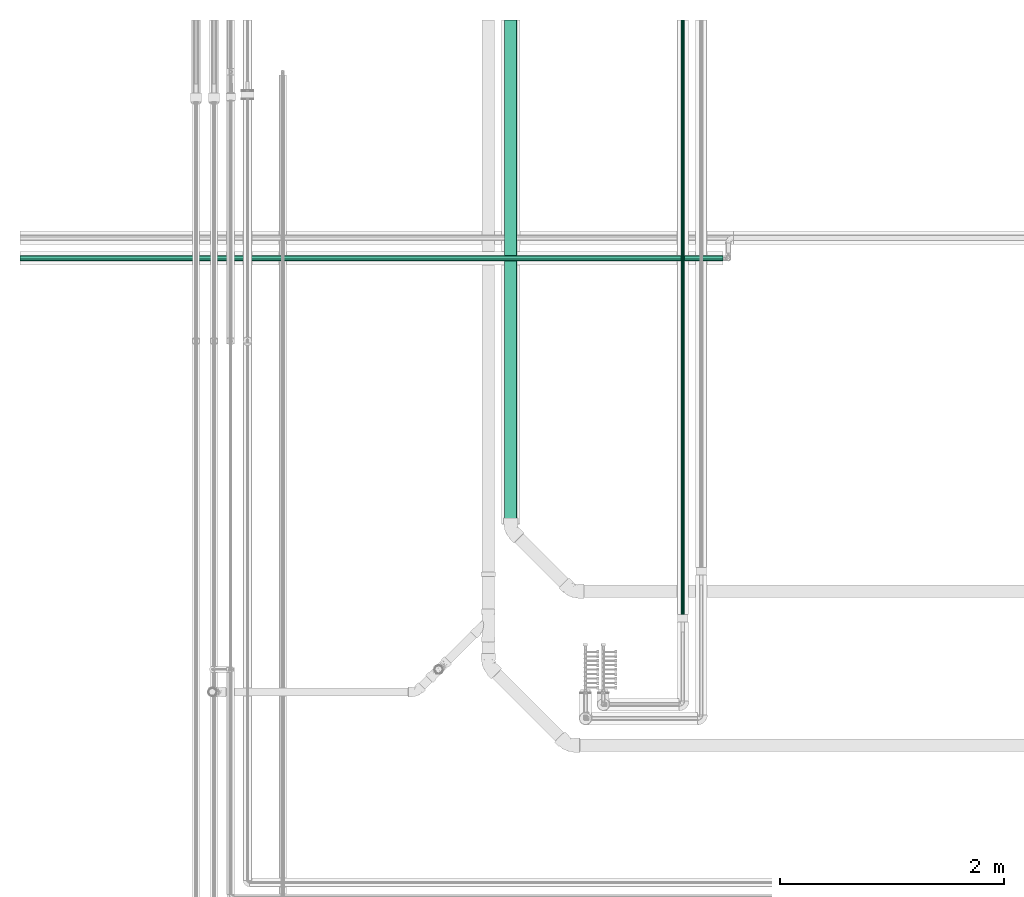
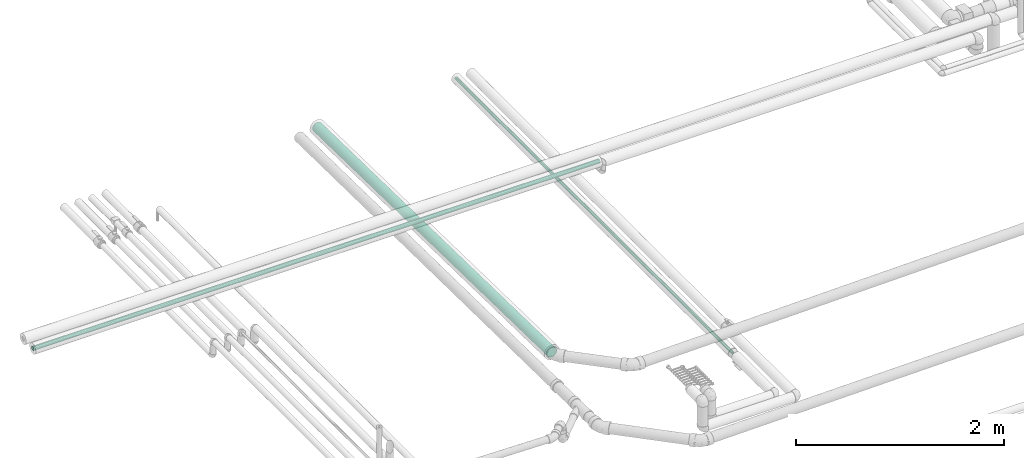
# One storey, part 52 of 83: 3 flow segments.
"""IFC2X3 building model written with IfcOpenShell, lengths in millimetres."""

from ifc_helpers import new_model, entity, si_unit, converted_unit, derived_unit, direction, frame, place, context, subcontext, project, spatial, faceted_brep, type_object, element, save


model = new_model("IFC2X3")

# Units and contexts
model_context = context("Model", 3, precision=0.01, world=frame((0.0, 4.29681676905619e-09, 0.0)), true_north=direction((4.01073788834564e-13, 1.0)))
plan_context = context("Plan", 3, precision=0.01, world=frame((0.0, 4.29681676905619e-09, 0.0)), true_north=direction((4.01073788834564e-13, 1.0)))
body_context = subcontext(model_context, "Body", "Model", "MODEL_VIEW")
ifc_project = project(units=[converted_unit("PLANEANGLEUNIT", "DEGREE", entity("IfcPositiveLengthMeasure", 0.0174532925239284), si_unit("PLANEANGLEUNIT", "RADIAN"), dimensions=[0, 0, 0, 0, 0, 0, 0]), si_unit("AREAUNIT", "SQUARE_METRE"), si_unit("LENGTHUNIT", "METRE", prefix="MILLI"), si_unit("MASSUNIT", "GRAM", prefix="KILO"), si_unit("POWERUNIT", "WATT"), si_unit("PRESSUREUNIT", "PASCAL"), si_unit("FORCEUNIT", "NEWTON", prefix="KILO"), si_unit("ELECTRICVOLTAGEUNIT", "VOLT"), si_unit("ELECTRICCURRENTUNIT", "AMPERE"), si_unit("THERMODYNAMICTEMPERATUREUNIT", "DEGREE_CELSIUS"), si_unit("TIMEUNIT", "SECOND"), si_unit("VOLUMEUNIT", "CUBIC_METRE"), derived_unit("LINEARVELOCITYUNIT", [(si_unit("LENGTHUNIT", "METRE"), 1), (si_unit("TIMEUNIT", "SECOND"), -1)]), derived_unit("VOLUMETRICFLOWRATEUNIT", [(si_unit("VOLUMEUNIT", "CUBIC_METRE"), 1), (si_unit("TIMEUNIT", "SECOND"), -1)]), derived_unit("THERMALTRANSMITTANCEUNIT", [(si_unit("POWERUNIT", "WATT"), 1), (si_unit("THERMODYNAMICTEMPERATUREUNIT", "KELVIN"), -1), (si_unit("AREAUNIT", "SQUARE_METRE"), -1)]), derived_unit("SOUNDPRESSUREUNIT", [(si_unit("PRESSUREUNIT", "PASCAL"), 1)])], contexts=[model_context, plan_context])

# Site, building, storey
site_placement = place(None, frame((0.0, -4.29681676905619e-09, 0.0), z_axis=(0.0, 0.0, 1.0), x_axis=(1.0, 0.0, 0.0)))
site = spatial("IfcSite", under=ifc_project, at=site_placement, Name="ENGM", CompositionType="ELEMENT")
building_placement = place(site_placement, frame((0.0, 4.29681676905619e-09, 0.0), z_axis=(0.0, 0.0, 1.0), x_axis=(1.0, 0.0, 0.0)))
building = spatial("IfcBuilding", under=site, at=building_placement, Name="TI", CompositionType="ELEMENT")
storey_placement = place(building_placement, frame((0.0, 0.0, 204000.0), z_axis=(0.0, 0.0, 1.0), x_axis=(1.0, 0.0, 0.0)))
storey = spatial("IfcBuildingStorey", under=building, at=storey_placement, Name="Nivå D", CompositionType="ELEMENT", Elevation=204000.0)

# Flow segments
pipe_segment_type_1 = type_object("IfcPipeSegmentType", Name="Stålrør normaltykke", PredefinedType="RIGIDSEGMENT")
flow_segment_1_placement = place(storey_placement, frame((603920.1909, 694163.73028, 6040.50777999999), z_axis=(0.0, 0.0, 1.0), x_axis=(0.0, 1.0, 0.0)))
element("IfcFlowSegment", 1, at=flow_segment_1_placement, inside=storey, type_object=pipe_segment_type_1, Name="Stålrør normaltykke", context=body_context, shape_type="Brep", body=[
    faceted_brep([(5311.76971999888, 14.9, 0.0), (5311.76971999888, 14.6736355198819, -2.58735784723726), (0.0, 14.6736355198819, -2.58735784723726), (0.0, 14.9, 0.0), (5311.76971999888, 14.00142004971, -5.09610013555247), (0.0, 14.00142004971, -5.09610013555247), (5311.76971999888, 12.9037785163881, -7.45000000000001), (0.0, 12.9037785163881, -7.45000000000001), (5311.76971999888, 11.4140622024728, -9.57753538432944), (0.0, 11.4140622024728, -9.57753538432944), (5311.76971999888, 9.57753538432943, -11.4140622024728), (0.0, 9.57753538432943, -11.4140622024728), (5311.76971999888, 7.45, -12.9037785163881), (0.0, 7.45, -12.9037785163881), (5311.76971999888, 5.09610013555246, -14.00142004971), (0.0, 5.09610013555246, -14.00142004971), (5311.76971999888, 2.58735784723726, -14.6736355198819), (0.0, 2.58735784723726, -14.6736355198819), (5311.76971999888, -2.73708559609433e-15, -14.9), (0.0, -2.73708559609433e-15, -14.9), (5311.76971999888, -2.58735784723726, -14.6736355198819), (0.0, -2.58735784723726, -14.6736355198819), (5311.76971999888, -5.09610013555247, -14.00142004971), (0.0, -5.09610013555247, -14.00142004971), (5311.76971999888, -7.45000000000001, -12.9037785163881), (0.0, -7.45000000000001, -12.9037785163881), (5311.76971999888, -9.57753538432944, -11.4140622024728), (0.0, -9.57753538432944, -11.4140622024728), (5311.76971999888, -11.4140622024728, -9.57753538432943), (0.0, -11.4140622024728, -9.57753538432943), (5311.76971999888, -12.9037785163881, -7.45), (0.0, -12.9037785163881, -7.44999999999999), (5311.76971999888, -14.00142004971, -5.09610013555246), (0.0, -14.00142004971, -5.09610013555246), (5311.76971999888, -14.6736355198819, -2.58735784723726), (0.0, -14.6736355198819, -2.58735784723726), (5311.76971999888, -14.9, 1.82472373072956e-15), (0.0, -14.9, 1.82472373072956e-15), (5311.76971999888, -14.6736355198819, 2.58735784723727), (0.0, -14.6736355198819, 2.58735784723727), (5311.76971999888, -14.00142004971, 5.09610013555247), (0.0, -14.00142004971, 5.09610013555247), (5311.76971999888, -12.9037785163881, 7.45), (0.0, -12.9037785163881, 7.45), (5311.76971999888, -11.4140622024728, 9.57753538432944), (0.0, -11.4140622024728, 9.57753538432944), (5311.76971999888, -9.57753538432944, 11.4140622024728), (0.0, -9.57753538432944, 11.4140622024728), (5311.76971999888, -7.45, 12.9037785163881), (0.0, -7.45, 12.9037785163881), (5311.76971999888, -5.09610013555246, 14.00142004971), (0.0, -5.09610013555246, 14.00142004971), (5311.76971999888, -2.58735784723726, 14.6736355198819), (0.0, -2.58735784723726, 14.6736355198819), (5311.76971999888, 9.12361865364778e-16, 14.9), (0.0, 9.12361865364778e-16, 14.9), (5311.76971999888, 2.58735784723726, 14.6736355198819), (0.0, 2.58735784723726, 14.6736355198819), (5311.76971999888, 5.09610013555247, 14.00142004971), (0.0, 5.09610013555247, 14.00142004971), (5311.76971999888, 7.45, 12.9037785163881), (0.0, 7.45, 12.9037785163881), (5311.76971999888, 9.57753538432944, 11.4140622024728), (0.0, 9.57753538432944, 11.4140622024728), (5311.76971999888, 11.4140622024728, 9.57753538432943), (0.0, 11.4140622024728, 9.57753538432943), (5311.76971999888, 12.9037785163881, 7.45), (0.0, 12.9037785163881, 7.45), (5311.76971999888, 14.00142004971, 5.09610013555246), (0.0, 14.00142004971, 5.09610013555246), (5311.76971999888, 14.6736355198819, 2.58735784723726), (0.0, 14.6736355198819, 2.58735784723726), (5311.76971999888, 16.6432510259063, -2.93465420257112), (5311.76971999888, 16.9, 0.0), (0.0, 16.9, 0.0), (0.0, 16.6432510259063, -2.93465420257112), (5311.76971999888, 16.6432510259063, 2.93465420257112), (0.0, 16.6432510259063, 2.93465420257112), (5311.76971999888, 15.8808052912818, 5.7801404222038), (0.0, 15.8808052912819, 5.7801404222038), (5311.76971999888, 14.635829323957, 8.45), (0.0, 14.635829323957, 8.45), (5311.76971999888, 12.9461510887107, 10.8631106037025), (0.0, 12.9461510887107, 10.8631106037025), (5311.76971999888, 10.8631106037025, 12.9461510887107), (0.0, 10.8631106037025, 12.9461510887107), (5311.76971999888, 8.45, 14.635829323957), (0.0, 8.45, 14.635829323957), (5311.76971999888, 5.7801404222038, 15.8808052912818), (0.0, 5.7801404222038, 15.8808052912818), (5311.76971999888, 2.93465420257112, 16.6432510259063), (0.0, 2.93465420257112, 16.6432510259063), (5311.76971999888, 1.03482654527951e-15, 16.9), (0.0, 1.03482654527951e-15, 16.9), (5311.76971999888, -2.93465420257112, 16.6432510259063), (0.0, -2.93465420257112, 16.6432510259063), (5311.76971999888, -5.7801404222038, 15.8808052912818), (0.0, -5.7801404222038, 15.8808052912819), (5311.76971999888, -8.45, 14.635829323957), (0.0, -8.45, 14.635829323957), (5311.76971999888, -10.8631106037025, 12.9461510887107), (0.0, -10.8631106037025, 12.9461510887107), (5311.76971999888, -12.9461510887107, 10.8631106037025), (0.0, -12.9461510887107, 10.8631106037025), (5311.76971999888, -14.635829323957, 8.45), (0.0, -14.635829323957, 8.45), (5311.76971999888, -15.8808052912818, 5.7801404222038), (0.0, -15.8808052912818, 5.7801404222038), (5311.76971999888, -16.6432510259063, 2.93465420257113), (0.0, -16.6432510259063, 2.93465420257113), (5311.76971999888, -16.9, 2.06965309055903e-15), (0.0, -16.9, 2.06965309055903e-15), (5311.76971999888, -16.6432510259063, -2.93465420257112), (0.0, -16.6432510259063, -2.93465420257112), (5311.76971999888, -15.8808052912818, -5.7801404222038), (0.0, -15.8808052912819, -5.7801404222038), (5311.76971999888, -14.635829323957, -8.44999999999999), (0.0, -14.635829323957, -8.44999999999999), (5311.76971999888, -12.9461510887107, -10.8631106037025), (0.0, -12.9461510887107, -10.8631106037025), (5311.76971999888, -10.8631106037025, -12.9461510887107), (0.0, -10.8631106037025, -12.9461510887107), (5311.76971999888, -8.45000000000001, -14.635829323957), (0.0, -8.45000000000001, -14.635829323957), (5311.76971999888, -5.78014042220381, -15.8808052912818), (0.0, -5.78014042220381, -15.8808052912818), (5311.76971999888, -2.93465420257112, -16.6432510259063), (0.0, -2.93465420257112, -16.6432510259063), (5311.76971999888, -3.10447963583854e-15, -16.9), (0.0, -3.10447963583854e-15, -16.9), (5311.76971999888, 2.93465420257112, -16.6432510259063), (0.0, 2.93465420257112, -16.6432510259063), (5311.76971999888, 5.78014042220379, -15.8808052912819), (0.0, 5.78014042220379, -15.8808052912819), (5311.76971999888, 8.45, -14.635829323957), (0.0, 8.45, -14.635829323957), (5311.76971999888, 10.8631106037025, -12.9461510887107), (0.0, 10.8631106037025, -12.9461510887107), (5311.76971999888, 12.9461510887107, -10.8631106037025), (0.0, 12.9461510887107, -10.8631106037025), (5311.76971999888, 14.635829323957, -8.45000000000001), (0.0, 14.635829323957, -8.45000000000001), (5311.76971999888, 15.8808052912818, -5.78014042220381), (0.0, 15.8808052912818, -5.78014042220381)], [[[0, 1, 2, 3]], [[1, 4, 5, 2]], [[4, 6, 7, 5]], [[6, 8, 9, 7]], [[8, 10, 11, 9]], [[10, 12, 13, 11]], [[12, 14, 15, 13]], [[14, 16, 17, 15]], [[16, 18, 19, 17]], [[18, 20, 21, 19]], [[20, 22, 23, 21]], [[22, 24, 25, 23]], [[24, 26, 27, 25]], [[26, 28, 29, 27]], [[28, 30, 31, 29]], [[30, 32, 33, 31]], [[32, 34, 35, 33]], [[34, 36, 37, 35]], [[36, 38, 39, 37]], [[38, 40, 41, 39]], [[40, 42, 43, 41]], [[42, 44, 45, 43]], [[44, 46, 47, 45]], [[46, 48, 49, 47]], [[48, 50, 51, 49]], [[50, 52, 53, 51]], [[52, 54, 55, 53]], [[54, 56, 57, 55]], [[56, 58, 59, 57]], [[58, 60, 61, 59]], [[60, 62, 63, 61]], [[62, 64, 65, 63]], [[64, 66, 67, 65]], [[66, 68, 69, 67]], [[68, 70, 71, 69]], [[70, 0, 3, 71]], [[72, 73, 74, 75]], [[73, 76, 77, 74]], [[76, 78, 79, 77]], [[78, 80, 81, 79]], [[80, 82, 83, 81]], [[82, 84, 85, 83]], [[84, 86, 87, 85]], [[86, 88, 89, 87]], [[88, 90, 91, 89]], [[90, 92, 93, 91]], [[92, 94, 95, 93]], [[94, 96, 97, 95]], [[96, 98, 99, 97]], [[98, 100, 101, 99]], [[100, 102, 103, 101]], [[102, 104, 105, 103]], [[104, 106, 107, 105]], [[106, 108, 109, 107]], [[108, 110, 111, 109]], [[110, 112, 113, 111]], [[112, 114, 115, 113]], [[114, 116, 117, 115]], [[116, 118, 119, 117]], [[118, 120, 121, 119]], [[120, 122, 123, 121]], [[122, 124, 125, 123]], [[124, 126, 127, 125]], [[126, 128, 129, 127]], [[128, 130, 131, 129]], [[130, 132, 133, 131]], [[132, 134, 135, 133]], [[134, 136, 137, 135]], [[136, 138, 139, 137]], [[138, 140, 141, 139]], [[140, 142, 143, 141]], [[142, 72, 75, 143]], [[75, 74, 77, 79, 81, 83, 85, 87, 89, 91, 93, 95, 97, 99, 101, 103, 105, 107, 109, 111, 113, 115, 117, 119, 121, 123, 125, 127, 129, 131, 133, 135, 137, 139, 141, 143], [3, 2, 5, 7, 9, 11, 13, 15, 17, 19, 21, 23, 25, 27, 29, 31, 33, 35, 37, 39, 41, 43, 45, 47, 49, 51, 53, 55, 57, 59, 61, 63, 65, 67, 69, 71]], [[142, 140, 138, 136, 134, 132, 130, 128, 126, 124, 122, 120, 118, 116, 114, 112, 110, 108, 106, 104, 102, 100, 98, 96, 94, 92, 90, 88, 86, 84, 82, 80, 78, 76, 73, 72], [70, 68, 66, 64, 62, 60, 58, 56, 54, 52, 50, 48, 46, 44, 42, 40, 38, 36, 34, 32, 30, 28, 26, 24, 22, 20, 18, 16, 14, 12, 10, 8, 6, 4, 1, 0]]], orient=[[False], [False], [False], [False], [False], [False], [False], [False], [False], [False], [False], [False], [False], [False], [False], [False], [False], [False], [False], [False], [False], [False], [False], [False], [False], [False], [False], [False], [False], [False], [False], [False], [False], [False], [False], [False], [False], [False], [False], [False], [False], [False], [False], [False], [False], [False], [False], [False], [False], [False], [False], [False], [False], [False], [False], [False], [False], [False], [False], [False], [False], [False], [False], [False], [False], [False], [False], [False], [False], [False], [False], [False], [False, False], [False, False]]),
])
flow_segment_2_placement = place(storey_placement, frame((577469.2661, 697347.0, 6233.10000000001), z_axis=(0.0, 0.0, 1.0), x_axis=(1.0, 0.0, 0.0)))
element("IfcFlowSegment", 2, at=flow_segment_2_placement, inside=storey, type_object=pipe_segment_type_1, Name="Stålrør normaltykke", context=body_context, shape_type="Brep", body=[
    faceted_brep([(20530.7338999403, 21.7642513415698, -3.83762472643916), (20530.7338999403, 22.1, 0.0), (26808.5, 22.1, 0.0), (26808.5, 21.7642513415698, -3.83762472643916), (20530.7338999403, 20.7672069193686, -7.5586451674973), (26808.5, 20.7672069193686, -7.5586451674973), (20530.7338999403, 19.1391614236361, -11.05), (26808.5, 19.1391614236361, -11.05), (20530.7338999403, 16.9295821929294, -14.2056061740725), (26808.5, 16.9295821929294, -14.2056061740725), (20530.7338999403, 14.2056061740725, -16.9295821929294), (26808.5, 14.2056061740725, -16.9295821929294), (20530.7338999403, 11.05, -19.1391614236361), (26808.5, 11.05, -19.1391614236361), (20530.7338999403, 7.55864516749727, -20.7672069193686), (26808.5, 7.55864516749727, -20.7672069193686), (20530.7338999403, 3.83762472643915, -21.7642513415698), (26808.5, 3.83762472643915, -21.7642513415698), (20530.7338999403, -4.05970413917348e-15, -22.1), (26808.5, -4.05970413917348e-15, -22.1), (20530.7338999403, -3.83762472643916, -21.7642513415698), (26808.5, -3.83762472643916, -21.7642513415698), (20530.7338999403, -7.55864516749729, -20.7672069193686), (26808.5, -7.55864516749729, -20.7672069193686), (20530.7338999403, -11.05, -19.1391614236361), (26808.5, -11.05, -19.1391614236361), (20530.7338999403, -14.2056061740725, -16.9295821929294), (26808.5, -14.2056061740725, -16.9295821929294), (20530.7338999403, -16.9295821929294, -14.2056061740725), (26808.5, -16.9295821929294, -14.2056061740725), (20530.7338999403, -19.1391614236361, -11.05), (26808.5, -19.1391614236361, -11.05), (20530.7338999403, -20.7672069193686, -7.55864516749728), (26808.5, -20.7672069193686, -7.55864516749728), (20530.7338999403, -21.7642513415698, -3.83762472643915), (26808.5, -21.7642513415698, -3.83762472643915), (20530.7338999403, -22.1, 2.70646942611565e-15), (26808.5, -22.1, 2.70646942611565e-15), (20530.7338999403, -21.7642513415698, 3.83762472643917), (26808.5, -21.7642513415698, 3.83762472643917), (20530.7338999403, -20.7672069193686, 7.55864516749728), (26808.5, -20.7672069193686, 7.55864516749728), (20530.7338999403, -19.1391614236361, 11.05), (26808.5, -19.1391614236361, 11.05), (20530.7338999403, -16.9295821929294, 14.2056061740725), (26808.5, -16.9295821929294, 14.2056061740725), (20530.7338999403, -14.2056061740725, 16.9295821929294), (26808.5, -14.2056061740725, 16.9295821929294), (20530.7338999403, -11.05, 19.1391614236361), (26808.5, -11.05, 19.1391614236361), (20530.7338999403, -7.55864516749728, 20.7672069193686), (26808.5, -7.55864516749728, 20.7672069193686), (20530.7338999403, -3.83762472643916, 21.7642513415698), (26808.5, -3.83762472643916, 21.7642513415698), (20530.7338999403, 1.35323471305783e-15, 22.1), (26808.5, 1.35323471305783e-15, 22.1), (20530.7338999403, 3.83762472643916, 21.7642513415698), (26808.5, 3.83762472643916, 21.7642513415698), (20530.7338999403, 7.55864516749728, 20.7672069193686), (26808.5, 7.55864516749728, 20.7672069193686), (20530.7338999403, 11.05, 19.1391614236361), (26808.5, 11.05, 19.1391614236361), (20530.7338999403, 14.2056061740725, 16.9295821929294), (26808.5, 14.2056061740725, 16.9295821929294), (20530.7338999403, 16.9295821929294, 14.2056061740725), (26808.5, 16.9295821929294, 14.2056061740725), (20530.7338999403, 19.1391614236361, 11.05), (26808.5, 19.1391614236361, 11.05), (20530.7338999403, 20.7672069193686, 7.55864516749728), (26808.5, 20.7672069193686, 7.55864516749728), (20530.7338999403, 21.7642513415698, 3.83762472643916), (26808.5, 21.7642513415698, 3.83762472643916), (20530.7338999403, 24.1, 0.0), (20530.7338999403, 23.7338668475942, -4.18492108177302), (26808.5, 23.7338668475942, -4.18492108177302), (26808.5, 24.1, 0.0), (20530.7338999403, 23.7338668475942, 4.18492108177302), (26808.5, 23.7338668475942, 4.18492108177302), (20530.7338999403, 22.6465921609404, 8.24268545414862), (26808.5, 22.6465921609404, 8.24268545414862), (20530.7338999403, 20.871212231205, 12.05), (26808.5, 20.871212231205, 12.05), (20530.7338999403, 18.4616710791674, 15.4911813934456), (26808.5, 18.4616710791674, 15.4911813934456), (20530.7338999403, 15.4911813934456, 18.4616710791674), (26808.5, 15.4911813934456, 18.4616710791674), (20530.7338999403, 12.05, 20.871212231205), (26808.5, 12.05, 20.871212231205), (20530.7338999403, 8.24268545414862, 22.6465921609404), (26808.5, 8.24268545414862, 22.6465921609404), (20530.7338999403, 4.18492108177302, 23.7338668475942), (26808.5, 4.18492108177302, 23.7338668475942), (20530.7338999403, 1.47569939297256e-15, 24.1), (26808.5, 1.47569939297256e-15, 24.1), (20530.7338999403, -4.18492108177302, 23.7338668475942), (26808.5, -4.18492108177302, 23.7338668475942), (20530.7338999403, -8.24268545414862, 22.6465921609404), (26808.5, -8.24268545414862, 22.6465921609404), (20530.7338999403, -12.05, 20.871212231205), (26808.5, -12.05, 20.871212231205), (20530.7338999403, -15.4911813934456, 18.4616710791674), (26808.5, -15.4911813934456, 18.4616710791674), (20530.7338999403, -18.4616710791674, 15.4911813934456), (26808.5, -18.4616710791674, 15.4911813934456), (20530.7338999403, -20.871212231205, 12.05), (26808.5, -20.871212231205, 12.05), (20530.7338999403, -22.6465921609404, 8.24268545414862), (26808.5, -22.6465921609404, 8.24268545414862), (20530.7338999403, -23.7338668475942, 4.18492108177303), (26808.5, -23.7338668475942, 4.18492108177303), (20530.7338999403, -24.1, 2.95139878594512e-15), (26808.5, -24.1, 2.95139878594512e-15), (20530.7338999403, -23.7338668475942, -4.18492108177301), (26808.5, -23.7338668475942, -4.18492108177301), (20530.7338999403, -22.6465921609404, -8.24268545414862), (26808.5, -22.6465921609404, -8.24268545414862), (20530.7338999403, -20.871212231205, -12.05), (26808.5, -20.871212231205, -12.05), (20530.7338999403, -18.4616710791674, -15.4911813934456), (26808.5, -18.4616710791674, -15.4911813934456), (20530.7338999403, -15.4911813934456, -18.4616710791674), (26808.5, -15.4911813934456, -18.4616710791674), (20530.7338999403, -12.05, -20.871212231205), (26808.5, -12.05, -20.871212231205), (20530.7338999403, -8.24268545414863, -22.6465921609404), (26808.5, -8.24268545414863, -22.6465921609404), (20530.7338999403, -4.18492108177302, -23.7338668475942), (26808.5, -4.18492108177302, -23.7338668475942), (20530.7338999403, -4.42709817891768e-15, -24.1), (26808.5, -4.42709817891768e-15, -24.1), (20530.7338999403, 4.18492108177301, -23.7338668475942), (26808.5, 4.18492108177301, -23.7338668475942), (20530.7338999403, 8.2426854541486, -22.6465921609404), (26808.5, 8.2426854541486, -22.6465921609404), (20530.7338999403, 12.05, -20.871212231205), (26808.5, 12.05, -20.871212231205), (20530.7338999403, 15.4911813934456, -18.4616710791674), (26808.5, 15.4911813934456, -18.4616710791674), (20530.7338999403, 18.4616710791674, -15.4911813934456), (26808.5, 18.4616710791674, -15.4911813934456), (20530.7338999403, 20.871212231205, -12.05), (26808.5, 20.871212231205, -12.05), (20530.7338999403, 22.6465921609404, -8.24268545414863), (26808.5, 22.6465921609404, -8.24268545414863)], [[[0, 1, 2, 3]], [[4, 0, 3, 5]], [[6, 4, 5, 7]], [[8, 6, 7, 9]], [[10, 8, 9, 11]], [[12, 10, 11, 13]], [[14, 12, 13, 15]], [[16, 14, 15, 17]], [[18, 16, 17, 19]], [[20, 18, 19, 21]], [[22, 20, 21, 23]], [[24, 22, 23, 25]], [[26, 24, 25, 27]], [[28, 26, 27, 29]], [[30, 28, 29, 31]], [[32, 30, 31, 33]], [[34, 32, 33, 35]], [[36, 34, 35, 37]], [[38, 36, 37, 39]], [[40, 38, 39, 41]], [[42, 40, 41, 43]], [[44, 42, 43, 45]], [[46, 44, 45, 47]], [[48, 46, 47, 49]], [[50, 48, 49, 51]], [[52, 50, 51, 53]], [[54, 52, 53, 55]], [[56, 54, 55, 57]], [[58, 56, 57, 59]], [[60, 58, 59, 61]], [[62, 60, 61, 63]], [[64, 62, 63, 65]], [[66, 64, 65, 67]], [[68, 66, 67, 69]], [[70, 68, 69, 71]], [[1, 70, 71, 2]], [[72, 73, 74, 75]], [[76, 72, 75, 77]], [[78, 76, 77, 79]], [[80, 78, 79, 81]], [[82, 80, 81, 83]], [[84, 82, 83, 85]], [[86, 84, 85, 87]], [[88, 86, 87, 89]], [[90, 88, 89, 91]], [[92, 90, 91, 93]], [[94, 92, 93, 95]], [[96, 94, 95, 97]], [[98, 96, 97, 99]], [[100, 98, 99, 101]], [[102, 100, 101, 103]], [[104, 102, 103, 105]], [[106, 104, 105, 107]], [[108, 106, 107, 109]], [[110, 108, 109, 111]], [[112, 110, 111, 113]], [[114, 112, 113, 115]], [[116, 114, 115, 117]], [[118, 116, 117, 119]], [[120, 118, 119, 121]], [[122, 120, 121, 123]], [[124, 122, 123, 125]], [[126, 124, 125, 127]], [[128, 126, 127, 129]], [[130, 128, 129, 131]], [[132, 130, 131, 133]], [[134, 132, 133, 135]], [[136, 134, 135, 137]], [[138, 136, 137, 139]], [[140, 138, 139, 141]], [[142, 140, 141, 143]], [[73, 142, 143, 74]], [[75, 74, 143, 141, 139, 137, 135, 133, 131, 129, 127, 125, 123, 121, 119, 117, 115, 113, 111, 109, 107, 105, 103, 101, 99, 97, 95, 93, 91, 89, 87, 85, 83, 81, 79, 77], [2, 71, 69, 67, 65, 63, 61, 59, 57, 55, 53, 51, 49, 47, 45, 43, 41, 39, 37, 35, 33, 31, 29, 27, 25, 23, 21, 19, 17, 15, 13, 11, 9, 7, 5, 3]], [[76, 78, 80, 82, 84, 86, 88, 90, 92, 94, 96, 98, 100, 102, 104, 106, 108, 110, 112, 114, 116, 118, 120, 122, 124, 126, 128, 130, 132, 134, 136, 138, 140, 142, 73, 72], [4, 6, 8, 10, 12, 14, 16, 18, 20, 22, 24, 26, 28, 30, 32, 34, 36, 38, 40, 42, 44, 46, 48, 50, 52, 54, 56, 58, 60, 62, 64, 66, 68, 70, 1, 0]]], orient=[[False], [False], [False], [False], [False], [False], [False], [False], [False], [False], [False], [False], [False], [False], [False], [False], [False], [False], [False], [False], [False], [False], [False], [False], [False], [False], [False], [False], [False], [False], [False], [False], [False], [False], [False], [False], [False], [False], [False], [False], [False], [False], [False], [False], [False], [False], [False], [False], [False], [False], [False], [False], [False], [False], [False], [False], [False], [False], [False], [False], [False], [False], [False], [False], [False], [False], [False], [False], [False], [False], [False], [False], [False, False], [False, False]]),
])
pipe_segment_type_2 = type_object("IfcPipeSegmentType", Name="Super-MA", PredefinedType="RIGIDSEGMENT")
flow_segment_3_placement = place(storey_placement, frame((602382.54332, 702286.04091, 5948.69521999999), z_axis=(-0.999965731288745, -0.000165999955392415, -0.00827699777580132), x_axis=(4.59892143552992e-07, -0.999800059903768, 0.019996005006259)))
element("IfcFlowSegment", 3, at=flow_segment_3_placement, inside=storey, type_object=pipe_segment_type_2, Name="Super-MA", context=body_context, shape_type="Brep", body=[
    faceted_brep([(2812.1483507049, 52.194810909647, -9.20335341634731), (2812.16292587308, 53.0, 0.0), (7315.2, 53.0, 0.0), (7315.2, 52.194810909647, -9.20335341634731), (2812.10201193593, 49.8037089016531, -18.1270675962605), (7315.2, 49.8037089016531, -18.1270675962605), (2812.02531754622, 45.8993464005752, -26.5), (7315.2, 45.8993464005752, -26.5), (2811.92059785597, 40.6003554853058, -34.0677433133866), (7315.2, 40.6003554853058, -34.0677433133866), (2811.79103472, 34.0677433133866, -40.6003554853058), (7315.2, 34.0677433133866, -40.6003554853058), (2811.64056484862, 26.5, -45.8993464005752), (7315.2, 26.5, -45.8993464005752), (2811.47376019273, 18.1270675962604, -49.8037089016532), (7315.2, 18.1270675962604, -49.8037089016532), (2811.29568902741, 9.20335341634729, -52.194810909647), (7315.2, 9.20335341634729, -52.194810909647), (2811.11176195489, -9.73594205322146e-15, -53.0), (7315.2, -9.73594205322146e-15, -53.0), (2810.92756750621, -9.20335341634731, -52.194810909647), (7315.2, -9.20335341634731, -52.194810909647), (2810.74870233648, -18.1270675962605, -49.8037089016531), (7315.2, -18.1270675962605, -49.8037089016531), (2810.58060117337, -26.5, -45.8993464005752), (7315.2, -26.5, -45.8993464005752), (2810.42837168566, -34.0677433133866, -40.6003554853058), (7315.2, -34.0677433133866, -40.6003554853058), (2810.29663928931, -40.6003554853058, -34.0677433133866), (7315.2, -40.6003554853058, -34.0677433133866), (2810.18940660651, -45.8993464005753, -26.5), (7315.2, -45.8993464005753, -26.5), (2810.10993184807, -49.8037089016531, -18.1270675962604), (7315.2, -49.8037089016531, -18.1270675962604), (2810.06062981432, -52.194810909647, -9.20335341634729), (7315.2, -52.194810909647, -9.20335341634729), (2810.04299852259, -53.0, 6.49062803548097e-15), (7315.2, -53.0, 6.49062803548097e-15), (2810.05757369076, -52.194810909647, 9.20335341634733), (7315.2, -52.194810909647, 9.20335341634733), (2810.10391245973, -49.8037089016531, 18.1270675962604), (7315.2, -49.8037089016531, 18.1270675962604), (2810.18060684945, -45.8993464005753, 26.5), (7315.2, -45.8993464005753, 26.5), (2810.28532653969, -40.6003554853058, 34.0677433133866), (7315.2, -40.6003554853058, 34.0677433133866), (2810.41488967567, -34.0677433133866, 40.6003554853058), (7315.2, -34.0677433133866, 40.6003554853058), (2810.56535954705, -26.5, 45.8993464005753), (7315.2, -26.5, 45.8993464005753), (2810.73216420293, -18.1270675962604, 49.8037089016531), (7315.2, -18.1270675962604, 49.8037089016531), (2810.91023536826, -9.20335341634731, 52.194810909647), (7315.2, -9.20335341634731, 52.194810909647), (2811.09416244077, 3.24531401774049e-15, 53.0), (7315.2, 3.24531401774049e-15, 53.0), (2811.27835688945, 9.20335341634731, 52.194810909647), (7315.2, 9.20335341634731, 52.194810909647), (2811.45722205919, 18.1270675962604, 49.8037089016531), (7315.2, 18.1270675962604, 49.8037089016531), (2811.6253232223, 26.5, 45.8993464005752), (7315.2, 26.5, 45.8993464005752), (2811.77755271, 34.0677433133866, 40.6003554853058), (7315.2, 34.0677433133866, 40.6003554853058), (2811.90928510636, 40.6003554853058, 34.0677433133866), (7315.2, 40.6003554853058, 34.0677433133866), (2812.01651778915, 45.8993464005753, 26.5), (7315.2, 45.8993464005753, 26.5), (2812.09599254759, 49.8037089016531, 18.1270675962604), (7315.2, 49.8037089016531, 18.1270675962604), (2812.14529458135, 52.194810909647, 9.20335341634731), (7315.2, 52.194810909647, 9.20335341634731), (2812.20292450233, 55.0, 0.0), (2812.18779932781, 54.1644264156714, -9.55064977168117), (7315.2, 54.1644264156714, -9.55064977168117), (7315.2, 55.0, 0.0), (2812.18462787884, 54.1644264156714, 9.55064977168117), (7315.2, 54.1644264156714, 9.55064977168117), (2812.13346539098, 51.683094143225, 18.8111078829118), (7315.2, 51.683094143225, 18.8111078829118), (2812.05099158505, 47.6313972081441, 27.5), (7315.2, 47.6313972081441, 27.5), (2811.93971238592, 42.1324443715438, 35.3533185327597), (7315.2, 42.1324443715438, 35.3533185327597), (2811.80300895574, 35.3533185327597, 42.1324443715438), (7315.2, 35.3533185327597, 42.1324443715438), (2811.64503495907, 27.5, 47.6313972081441), (7315.2, 27.5, 47.6313972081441), (2811.47059035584, 18.8111078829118, 51.683094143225), (7315.2, 18.8111078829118, 51.683094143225), (2811.28497555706, 9.55064977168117, 54.1644264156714), (7315.2, 9.55064977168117, 54.1644264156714), (2811.09383037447, 3.36777869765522e-15, 55.0), (7315.2, 3.36777869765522e-15, 55.0), (2810.90296265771, -9.55064977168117, 54.1644264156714), (7315.2, -9.55064977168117, 54.1644264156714), (2810.71817182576, -18.8111078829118, 51.683094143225), (7315.2, -18.8111078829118, 51.683094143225), (2810.54507265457, -27.5, 47.6313972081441), (7315.2, -27.5, 47.6313972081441), (2810.38892467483, -35.3533185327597, 42.1324443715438), (7315.2, -35.3533185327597, 42.1324443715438), (2810.25447236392, -42.1324443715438, 35.3533185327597), (7315.2, -42.1324443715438, 35.3533185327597), (2810.14580098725, -47.6313972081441, 27.5), (7315.2, -47.6313972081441, 27.5), (2810.06621246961, -51.683094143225, 18.8111078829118), (7315.2, -51.683094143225, 18.8111078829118), (2810.01812506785, -54.1644264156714, 9.55064977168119), (7315.2, -54.1644264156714, 9.55064977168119), (2810.00299989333, -55.0, 6.73555739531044e-15), (7315.2, -55.0, 6.73555739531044e-15), (2810.02129651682, -54.1644264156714, -9.55064977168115), (7315.2, -54.1644264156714, -9.55064977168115), (2810.07245900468, -51.683094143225, -18.8111078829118), (7315.2, -51.683094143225, -18.8111078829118), (2810.15493281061, -47.6313972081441, -27.5), (7315.2, -47.6313972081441, -27.5), (2810.26621200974, -42.1324443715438, -35.3533185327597), (7315.2, -42.1324443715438, -35.3533185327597), (2810.40291543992, -35.3533185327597, -42.1324443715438), (7315.2, -35.3533185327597, -42.1324443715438), (2810.5608894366, -27.5, -47.6313972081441), (7315.2, -27.5, -47.6313972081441), (2810.73533403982, -18.8111078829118, -51.6830941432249), (7315.2, -18.8111078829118, -51.6830941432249), (2810.9209488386, -9.55064977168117, -54.1644264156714), (7315.2, -9.55064977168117, -54.1644264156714), (2811.1120940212, -1.01033360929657e-14, -55.0), (7315.2, -1.01033360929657e-14, -55.0), (2811.30296173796, 9.55064977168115, -54.1644264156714), (7315.2, 9.55064977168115, -54.1644264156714), (2811.4877525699, 18.8111078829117, -51.683094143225), (7315.2, 18.8111078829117, -51.683094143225), (2811.6608517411, 27.5, -47.6313972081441), (7315.2, 27.5, -47.6313972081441), (2811.81699972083, 35.3533185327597, -42.1324443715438), (7315.2, 35.3533185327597, -42.1324443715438), (2811.95145203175, 42.1324443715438, -35.3533185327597), (7315.2, 42.1324443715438, -35.3533185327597), (2812.06012340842, 47.6313972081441, -27.5), (7315.2, 47.6313972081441, -27.5), (2812.13971192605, 51.6830941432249, -18.8111078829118), (7315.2, 51.6830941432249, -18.8111078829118)], [[[0, 1, 2, 3]], [[4, 0, 3, 5]], [[6, 4, 5, 7]], [[8, 6, 7, 9]], [[10, 8, 9, 11]], [[12, 10, 11, 13]], [[14, 12, 13, 15]], [[16, 14, 15, 17]], [[18, 16, 17, 19]], [[20, 18, 19, 21]], [[22, 20, 21, 23]], [[24, 22, 23, 25]], [[26, 24, 25, 27]], [[28, 26, 27, 29]], [[30, 28, 29, 31]], [[32, 30, 31, 33]], [[34, 32, 33, 35]], [[36, 34, 35, 37]], [[38, 36, 37, 39]], [[40, 38, 39, 41]], [[42, 40, 41, 43]], [[44, 42, 43, 45]], [[46, 44, 45, 47]], [[48, 46, 47, 49]], [[50, 48, 49, 51]], [[52, 50, 51, 53]], [[54, 52, 53, 55]], [[56, 54, 55, 57]], [[58, 56, 57, 59]], [[60, 58, 59, 61]], [[62, 60, 61, 63]], [[64, 62, 63, 65]], [[66, 64, 65, 67]], [[68, 66, 67, 69]], [[70, 68, 69, 71]], [[1, 70, 71, 2]], [[72, 73, 74, 75]], [[76, 72, 75, 77]], [[78, 76, 77, 79]], [[80, 78, 79, 81]], [[82, 80, 81, 83]], [[84, 82, 83, 85]], [[86, 84, 85, 87]], [[88, 86, 87, 89]], [[90, 88, 89, 91]], [[92, 90, 91, 93]], [[94, 92, 93, 95]], [[96, 94, 95, 97]], [[98, 96, 97, 99]], [[100, 98, 99, 101]], [[102, 100, 101, 103]], [[104, 102, 103, 105]], [[106, 104, 105, 107]], [[108, 106, 107, 109]], [[110, 108, 109, 111]], [[112, 110, 111, 113]], [[114, 112, 113, 115]], [[116, 114, 115, 117]], [[118, 116, 117, 119]], [[120, 118, 119, 121]], [[122, 120, 121, 123]], [[124, 122, 123, 125]], [[126, 124, 125, 127]], [[128, 126, 127, 129]], [[130, 128, 129, 131]], [[132, 130, 131, 133]], [[134, 132, 133, 135]], [[136, 134, 135, 137]], [[138, 136, 137, 139]], [[140, 138, 139, 141]], [[142, 140, 141, 143]], [[73, 142, 143, 74]], [[75, 74, 143, 141, 139, 137, 135, 133, 131, 129, 127, 125, 123, 121, 119, 117, 115, 113, 111, 109, 107, 105, 103, 101, 99, 97, 95, 93, 91, 89, 87, 85, 83, 81, 79, 77], [2, 71, 69, 67, 65, 63, 61, 59, 57, 55, 53, 51, 49, 47, 45, 43, 41, 39, 37, 35, 33, 31, 29, 27, 25, 23, 21, 19, 17, 15, 13, 11, 9, 7, 5, 3]], [[76, 78, 80, 82, 84, 86, 88, 90, 92, 94, 96, 98, 100, 102, 104, 106, 108, 110, 112, 114, 116, 118, 120, 122, 124, 126, 128, 130, 132, 134, 136, 138, 140, 142, 73, 72], [4, 6, 8, 10, 12, 14, 16, 18, 20, 22, 24, 26, 28, 30, 32, 34, 36, 38, 40, 42, 44, 46, 48, 50, 52, 54, 56, 58, 60, 62, 64, 66, 68, 70, 1, 0]]], orient=[[False], [False], [False], [False], [False], [False], [False], [False], [False], [False], [False], [False], [False], [False], [False], [False], [False], [False], [False], [False], [False], [False], [False], [False], [False], [False], [False], [False], [False], [False], [False], [False], [False], [False], [False], [False], [False], [False], [False], [False], [False], [False], [False], [False], [False], [False], [False], [False], [False], [False], [False], [False], [False], [False], [False], [False], [False], [False], [False], [False], [False], [False], [False], [False], [False], [False], [False], [False], [False], [False], [False], [False], [False, False], [False, False]]),
])

save(model, "model.ifc")
